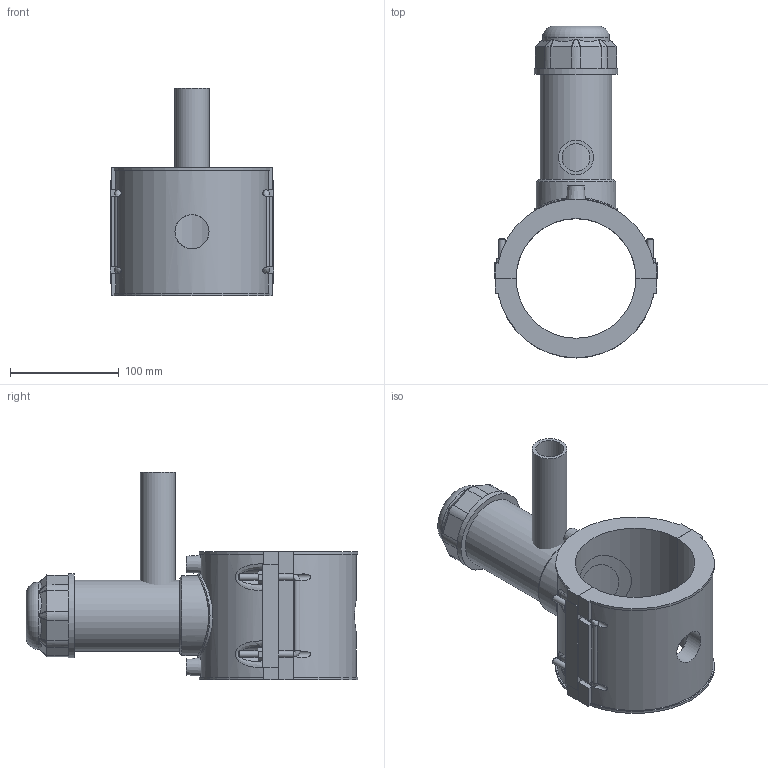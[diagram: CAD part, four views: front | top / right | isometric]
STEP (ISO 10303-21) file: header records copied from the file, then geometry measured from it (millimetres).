
FILE_DESCRIPTION(/* description */ (''),/* implementation_level */ '2;1');
FILE_NAME(/* name */ 'C:\Dropbox\KIMPROJECTS-Inventor 2019\99-16-3568-Processing\ElectroFusion Fittings\4963P4\stp\4963P4110032.stp',/* time_stamp */ '2022-03-17T11:27:43+02:00',/* author */ ('KIM'),/* organization */ (''),/* preprocessor_version */ 'ST-DEVELOPER v17.2',/* originating_system */ 'Autodesk Inventor 2019',/* authorisation */ '');
FILE_SCHEMA (('AUTOMOTIVE_DESIGN { 1 0 10303 214 3 1 1 }'));
Length unit declared in the file: millimetre
Products named in the file (1): 4963P4110032
Bounding box: 150 x 304.93 x 191 mm (x, y, z)
Volume: 1184088.5 mm3; surface area: 223710.3 mm2
Topology: 3 solids, 3 shells, 218 faces, 563 edges, 364 vertices
Faces by surface type: plane 125, cylinder 52, bspline 25, cone 15, torus 1
Full cylindrical faces by diameter (mm): 4 x2, 6 x8, 10 x2, 25.6 x1, 31.36 x1, 32 x1, 53.9 x1, 61.6 x1, 65.45 x1, 73.15 x1, 77 x2
Entity records: 8231 total; most frequent: CARTESIAN_POINT 2967, ORIENTED_EDGE 1126, DIRECTION 1011, EDGE_CURVE 563, VERTEX_POINT 364, AXIS2_PLACEMENT_3D 347, LINE 317, VECTOR 317
